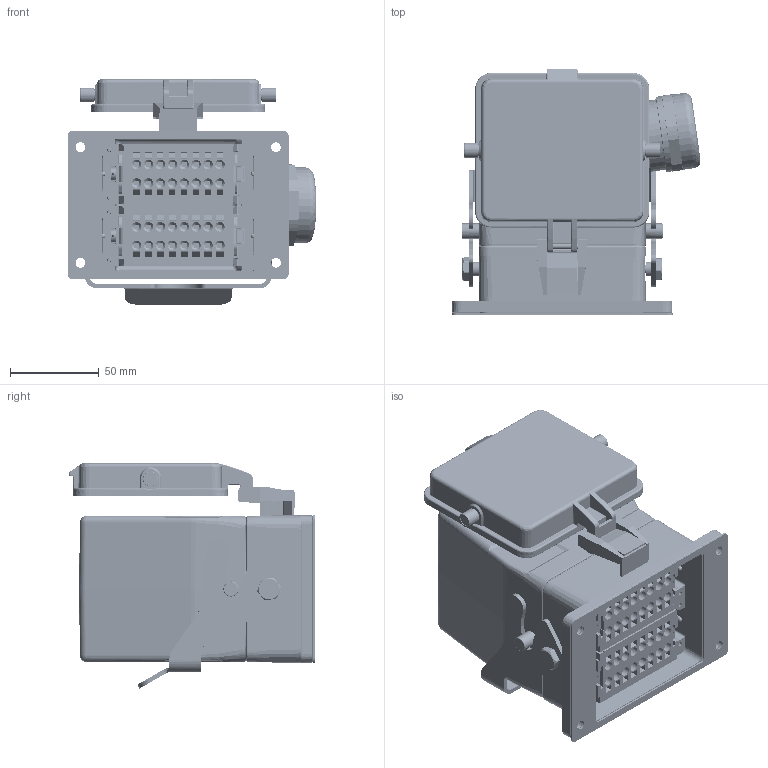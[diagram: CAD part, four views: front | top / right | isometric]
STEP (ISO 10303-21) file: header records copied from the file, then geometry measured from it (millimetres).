
FILE_DESCRIPTION (( 'STEP AP214' ), '1' );
FILE_NAME ('09132105132P HESH、32针、开孔带盖底座、侧出M32套件、配塑料接头.STEP', '2024-04-29T06:35:40', ( 'L' ), ( '' ), 'SwSTEP 2.0', 'SolidWorks 2019', '' );
FILE_SCHEMA (( 'AUTOMOTIVE_DESIGN' ));
Length unit declared in the file: millimetre
Products named in the file (8): FAS-32-P.step; HESH-016-MD.stp; H32B-TS-RO-M32.step; H32B-AD-LB.step; HESH-016-F.stp; 09132105132P HESH、32针、开孔带盖底座、侧出M32套件、配塑料接头; HESH-016-M.stp; HESH-016-FD.stp
Assembly tree (7 placements, depth 2):
  09132105132P HESH、32针、开孔带盖底座、侧出M32套件、配塑料接头
    FAS-32-P.step
    HESH-016-M.stp
    HESH-016-F.stp
    HESH-016-MD.stp
    HESH-016-FD.stp
    H32B-AD-LB.step
    H32B-TS-RO-M32.step
Bounding box: 139.93 x 138.64 x 126.75 mm (x, y, z)
Volume: 523459.7 mm3; surface area: 274877.5 mm2
Topology: 7 solids, 11 shells, 6501 faces, 17190 edges, 10976 vertices
Faces by surface type: plane 3563, cylinder 1564, cone 795, bspline 379, torus 110, sphere 90
Entity records: 255629 total; most frequent: CARTESIAN_POINT 75570, ORIENTED_EDGE 33988, DIRECTION 30285, EDGE_CURVE 16994, VERTEX_POINT 10968, LINE 10573, VECTOR 10573, AXIS2_PLACEMENT_3D 9856
